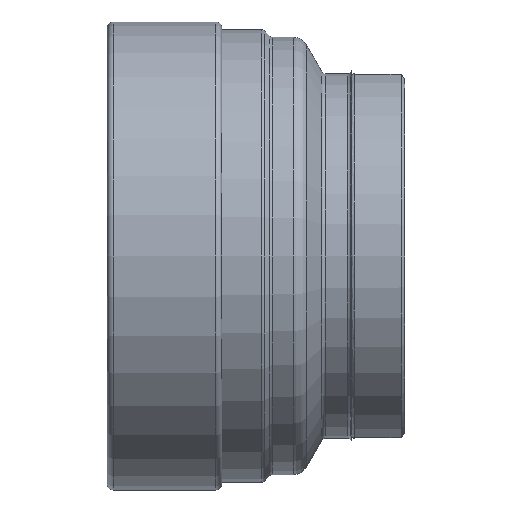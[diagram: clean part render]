
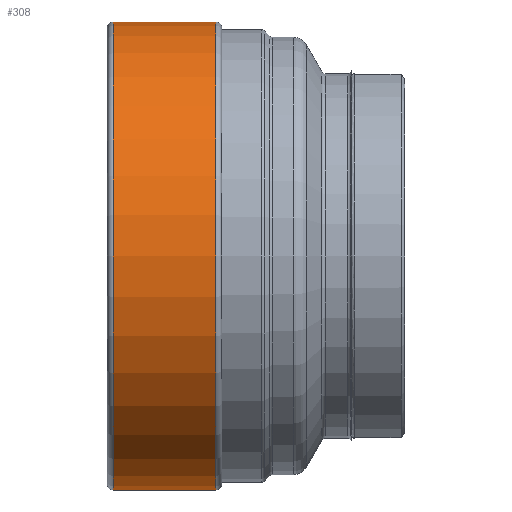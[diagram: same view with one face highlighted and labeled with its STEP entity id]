
A CAD part, front view. The second image highlights one B-rep face of the part: STEP entity #308.
In plain terms, the highlighted cylindrical face has radius 31.45 mm (diameter 62.9 mm), a full revolution.
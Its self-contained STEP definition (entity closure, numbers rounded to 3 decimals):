
#143=CYLINDRICAL_SURFACE('',#1136,31.45);
#308=ADVANCED_FACE('',(#409,#410),#143,.T.);
#409=FACE_BOUND('',#521,.T.);
#410=FACE_BOUND('',#522,.T.);
#521=EDGE_LOOP('',(#745));
#522=EDGE_LOOP('',(#746));
#745=ORIENTED_EDGE('',*,*,#952,.T.);
#746=ORIENTED_EDGE('',*,*,#953,.T.);
#840=VERTEX_POINT('',#1926);
#841=VERTEX_POINT('',#1928);
#952=EDGE_CURVE('',#840,#840,#1012,.T.);
#953=EDGE_CURVE('',#841,#841,#1013,.T.);
#1012=CIRCLE('',#1134,31.45);
#1013=CIRCLE('',#1135,31.45);
#1134=AXIS2_PLACEMENT_3D('',#1925,#1403,#1404);
#1135=AXIS2_PLACEMENT_3D('',#1927,#1405,#1406);
#1136=AXIS2_PLACEMENT_3D('',#1929,#1407,#1408);
#1403=DIRECTION('',(1.,0.,0.));
#1404=DIRECTION('',(0.,0.,-1.));
#1405=DIRECTION('',(-1.,0.,0.));
#1406=DIRECTION('',(0.,0.,1.));
#1407=DIRECTION('',(-1.,0.,0.));
#1408=DIRECTION('',(0.,0.,1.));
#1925=CARTESIAN_POINT('',(0.8,0.,0.));
#1926=CARTESIAN_POINT('',(0.8,0.,-31.45));
#1927=CARTESIAN_POINT('',(14.6,0.,0.));
#1928=CARTESIAN_POINT('',(14.6,0.,31.45));
#1929=CARTESIAN_POINT('',(0.,0.,0.));
